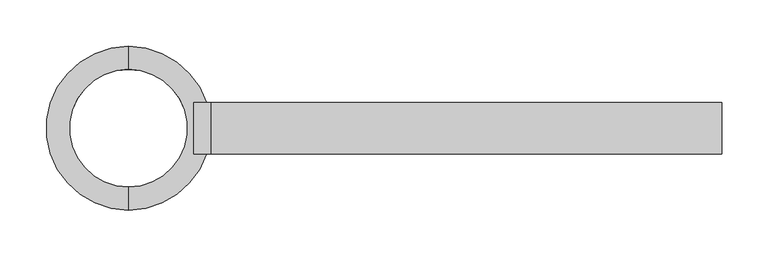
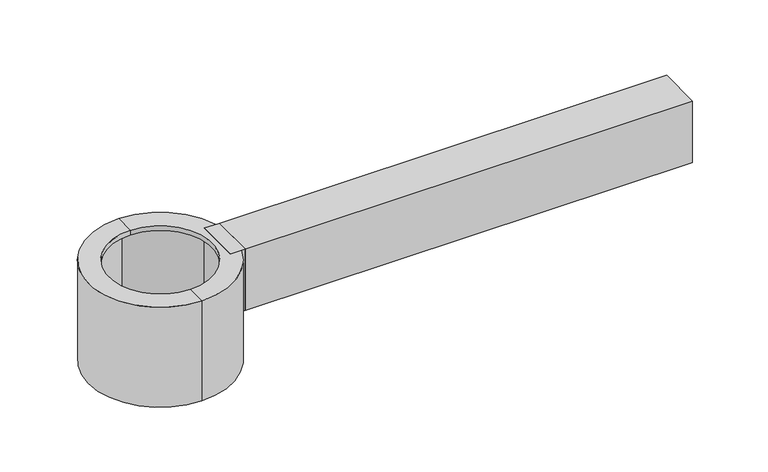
"""IFC4 building model written with IfcOpenShell, lengths in millimetres: light fixture geometry, CANDELA_CLF : 1XCLF03."""

from ifc_helpers import new_model, si_unit, frame, origin, origin_with_axes, place, context, project, spatial, polyline, circle_curve, outline, extrude, source, transform, mapped, element, save
from ifc_brep_helpers import plane_surface, cylinder_surface, revolved_surface, advanced_brep


def light_fixture_f490e10b(model_context):
    return source(origin(), model_context, "Body", "SolidModel", [
        advanced_brep(
        [(0.0, -88.3, -50.0), (0.0, -63.5, -50.0), (0.0, -63.5, -44.0), (0.0, -82.3, -44.0), (0.0, -82.3, 74.0), (0.0, -63.5, 74.0), (0.0, -63.5, 80.0), (0.0, -88.3, 80.0), (0.0, 88.3, -50.0), (0.0, 88.3, 80.0), (0.0, 63.5, 80.0), (0.0, 63.5, 74.0), (0.0, 82.3, 74.0), (0.0, 82.3, -44.0), (0.0, 63.5, -44.0), (0.0, 63.5, -50.0)],
        [
            (0, 1),
            (1, 2),
            (2, 3),
            (3, 4),
            (4, 5),
            (5, 6),
            (6, 7),
            (7, 0),
            (8, 9),
            (9, 10),
            (10, 11),
            (11, 12),
            (12, 13),
            (13, 14),
            (14, 15),
            (15, 8),
            (15, 1, circle_curve(frame((0.0, 0.0, -50.0), z_axis=(0.0, 0.0, 1.0), x_axis=(0.0, -1.0, 0.0)), 63.5)),
            (0, 8, circle_curve(frame((0.0, 0.0, -50.0), z_axis=(0.0, 0.0, -1.0), x_axis=(0.0, -1.0, 0.0)), 88.3)),
            (14, 2, circle_curve(frame((0.0, 0.0, -44.0), z_axis=(0.0, 0.0, 1.0), x_axis=(0.0, -1.0, 0.0)), 63.5)),
            (13, 3, circle_curve(frame((0.0, 0.0, -44.0), z_axis=(0.0, 0.0, 1.0), x_axis=(0.0, -1.0, 0.0)), 82.3)),
            (12, 4, circle_curve(frame((0.0, 0.0, 74.0), z_axis=(0.0, 0.0, 1.0), x_axis=(0.0, -1.0, 0.0)), 82.3)),
            (11, 5, circle_curve(frame((0.0, 0.0, 74.0), z_axis=(0.0, 0.0, 1.0), x_axis=(0.0, -1.0, 0.0)), 63.5)),
            (10, 6, circle_curve(frame((0.0, 0.0, 80.0), z_axis=(0.0, 0.0, 1.0), x_axis=(0.0, -1.0, 0.0)), 63.5)),
            (9, 7, circle_curve(frame((0.0, 0.0, 80.0), z_axis=(0.0, 0.0, 1.0), x_axis=(0.0, -1.0, 0.0)), 88.3)),
        ],
        [
            plane_surface(frame((0.0, 0.0, -520.9920377), z_axis=(1.0, 0.0, 0.0), x_axis=(0.0, -1.0, 0.0))),
            plane_surface(frame((0.0, 0.0, -520.9920377), z_axis=(1.0, 0.0, 0.0), x_axis=(0.0, 1.0, 0.0))),
            plane_surface(frame((0.0, 0.0, -50.0), z_axis=(0.0, 0.0, -1.0), x_axis=(0.0, -1.0, 0.0))),
            revolved_surface(polyline([(0.0, -63.5, -50.0), (0.0, -63.5, -44.0)]), (0.0, 0.0, -520.9920377), (0.0, 0.0, -1.0)),
            plane_surface(frame((0.0, 0.0, -44.0), z_axis=(0.0, 0.0, 1.0), x_axis=(0.0, -1.0, 0.0))),
            revolved_surface(polyline([(0.0, -82.3, -44.0), (0.0, -82.3, 74.0)]), (0.0, 0.0, -520.9920377), (0.0, 0.0, -1.0)),
            plane_surface(frame((0.0, 0.0, 74.0), z_axis=(0.0, 0.0, -1.0), x_axis=(0.0, -1.0, 0.0))),
            revolved_surface(polyline([(0.0, -63.5, 74.0), (0.0, -63.5, 80.0)]), (0.0, 0.0, -520.9920377), (0.0, 0.0, -1.0)),
            plane_surface(frame((0.0, 0.0, 80.0), z_axis=(0.0, 0.0, 1.0), x_axis=(0.0, -1.0, 0.0))),
            cylinder_surface(frame((0.0, 0.0, -520.9920377), z_axis=(0.0, 0.0, -1.0), x_axis=(0.0, -1.0, 0.0)), 88.3),
        ],
        [
            (0, [[1, 2, 3, 4, 5, 6, 7, 8]]),
            (1, [[9, 10, 11, 12, 13, 14, 15, 16]]),
            (2, [[17, -1, 18, -16]]),
            (3, [[19, -2, -17, -15]]),
            (4, [[20, -3, -19, -14]]),
            (5, [[21, -4, -20, -13]]),
            (6, [[22, -5, -21, -12]]),
            (7, [[23, -6, -22, -11]]),
            (8, [[24, -7, -23, -10]]),
            (9, [[-18, -8, -24, -9]]),
        ],
    ),
        extrude(outline(polyline([(88.3, 27.5), (88.3, -27.5), (69.9764576, -27.5), (69.9764576, 27.5), (88.3, 27.5)])), origin_with_axes(), (0.0, 0.0, 1.0), 80.0),
        advanced_brep(
        [(0.0, -88.3, -50.0), (0.0, -88.3, 80.0), (0.0, -63.5, 80.0), (0.0, -63.5, 74.0), (0.0, -82.3, 74.0), (0.0, -82.3, -44.0), (0.0, -63.5, -44.0), (0.0, -63.5, -50.0), (0.0, 88.3, -50.0), (0.0, 63.5, -50.0), (0.0, 63.5, -44.0), (0.0, 82.3, -44.0), (0.0, 82.3, 74.0), (0.0, 63.5, 74.0), (0.0, 63.5, 80.0), (0.0, 88.3, 80.0)],
        [
            (0, 1),
            (1, 2),
            (2, 3),
            (3, 4),
            (4, 5),
            (5, 6),
            (6, 7),
            (7, 0),
            (8, 9),
            (9, 10),
            (10, 11),
            (11, 12),
            (12, 13),
            (13, 14),
            (14, 15),
            (15, 8),
            (8, 0, circle_curve(frame((0.0, 0.0, -50.0), z_axis=(0.0, 0.0, -1.0), x_axis=(0.0, -1.0, 0.0)), 88.3)),
            (7, 9, circle_curve(frame((0.0, 0.0, -50.0), z_axis=(0.0, 0.0, 1.0), x_axis=(0.0, -1.0, 0.0)), 63.5)),
            (6, 10, circle_curve(frame((0.0, 0.0, -44.0), z_axis=(0.0, 0.0, 1.0), x_axis=(0.0, -1.0, 0.0)), 63.5)),
            (5, 11, circle_curve(frame((0.0, 0.0, -44.0), z_axis=(0.0, 0.0, 1.0), x_axis=(0.0, -1.0, 0.0)), 82.3)),
            (4, 12, circle_curve(frame((0.0, 0.0, 74.0), z_axis=(0.0, 0.0, 1.0), x_axis=(0.0, -1.0, 0.0)), 82.3)),
            (3, 13, circle_curve(frame((0.0, 0.0, 74.0), z_axis=(0.0, 0.0, 1.0), x_axis=(0.0, -1.0, 0.0)), 63.5)),
            (2, 14, circle_curve(frame((0.0, 0.0, 80.0), z_axis=(0.0, 0.0, 1.0), x_axis=(0.0, -1.0, 0.0)), 63.5)),
            (1, 15, circle_curve(frame((0.0, 0.0, 80.0), z_axis=(0.0, 0.0, 1.0), x_axis=(0.0, -1.0, 0.0)), 88.3)),
        ],
        [
            plane_surface(frame((0.0, 0.0, -520.9920377), z_axis=(-1.0, 0.0, 0.0), x_axis=(0.0, -1.0, 0.0))),
            plane_surface(frame((0.0, 0.0, -520.9920377), z_axis=(-1.0, 0.0, 0.0), x_axis=(0.0, 1.0, 0.0))),
            plane_surface(frame((0.0, 0.0, -50.0), z_axis=(0.0, 0.0, -1.0), x_axis=(0.0, -1.0, 0.0))),
            revolved_surface(polyline([(0.0, -63.5, -44.0), (0.0, -63.5, -50.0)]), (0.0, 0.0, -520.9920377), (0.0, 0.0, 1.0)),
            plane_surface(frame((0.0, 0.0, -44.0), z_axis=(0.0, 0.0, 1.0), x_axis=(0.0, -1.0, 0.0))),
            revolved_surface(polyline([(0.0, -82.3, 74.0), (0.0, -82.3, -44.0)]), (0.0, 0.0, -520.9920377), (0.0, 0.0, 1.0)),
            plane_surface(frame((0.0, 0.0, 74.0), z_axis=(0.0, 0.0, -1.0), x_axis=(0.0, -1.0, 0.0))),
            revolved_surface(polyline([(0.0, -63.5, 80.0), (0.0, -63.5, 74.0)]), (0.0, 0.0, -520.9920377), (0.0, 0.0, 1.0)),
            plane_surface(frame((0.0, 0.0, 80.0), z_axis=(0.0, 0.0, 1.0), x_axis=(0.0, -1.0, 0.0))),
            cylinder_surface(frame((0.0, 0.0, -520.9920377), z_axis=(0.0, 0.0, 1.0), x_axis=(0.0, -1.0, 0.0)), 88.3),
        ],
        [
            (0, [[1, 2, 3, 4, 5, 6, 7, 8]]),
            (1, [[9, 10, 11, 12, 13, 14, 15, 16]]),
            (2, [[17, -8, 18, -9]]),
            (3, [[-18, -7, 19, -10]]),
            (4, [[-19, -6, 20, -11]]),
            (5, [[-20, -5, 21, -12]]),
            (6, [[-21, -4, 22, -13]]),
            (7, [[-22, -3, 23, -14]]),
            (8, [[-23, -2, 24, -15]]),
            (9, [[-24, -1, -17, -16]]),
        ],
    ),
        extrude(outline(polyline([(27.5, 0.0), (-27.5, 0.0), (-27.5, 80.0), (27.5, 80.0), (27.5, 0.0)]), holes=[polyline([(-21.5, 6.0), (21.5, 6.0), (21.5, 74.0), (-21.5, 74.0), (-21.5, 6.0)])]), frame((88.3, 0.0, 0.0), z_axis=(1.0, 0.0, 0.0), x_axis=(0.0, 1.0, 0.0)), (0.0, 0.0, 1.0), 550.0),
    ])


if __name__ == "__main__":
    model = new_model("IFC4")
    model_context = context("Model", 3, world=origin())
    ifc_project = project(units=[si_unit("LENGTHUNIT", "METRE", prefix="MILLI")], contexts=[model_context])
    site = spatial("IfcSite", under=ifc_project)
    building = spatial("IfcBuilding", under=site)
    placement = place(None, origin())
    light_fixture_shape = light_fixture_f490e10b(model_context)
    element("IfcLightFixture", 1, ObjectType="CANDELA_CLF : 1XCLF03", at=placement, inside=building, context=model_context, shape_type="MappedRepresentation", body=[
        mapped(light_fixture_shape, transform((0.0, 0.0, 0.0), x_axis=(1.0, 0.0, 0.0), y_axis=(0.0, 1.0, 0.0), z_axis=(0.0, 0.0, 1.0))),
    ])
    save(model, "model.ifc")
